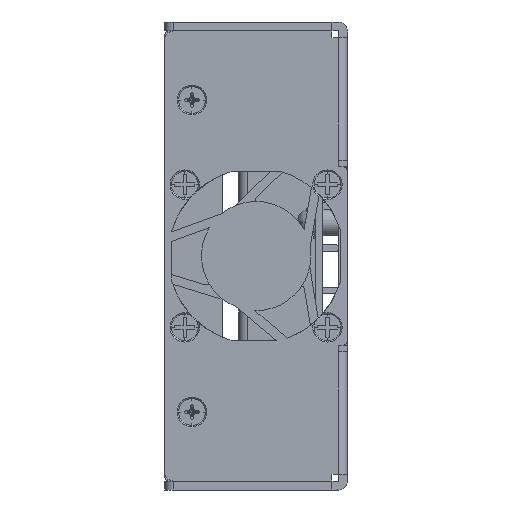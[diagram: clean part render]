
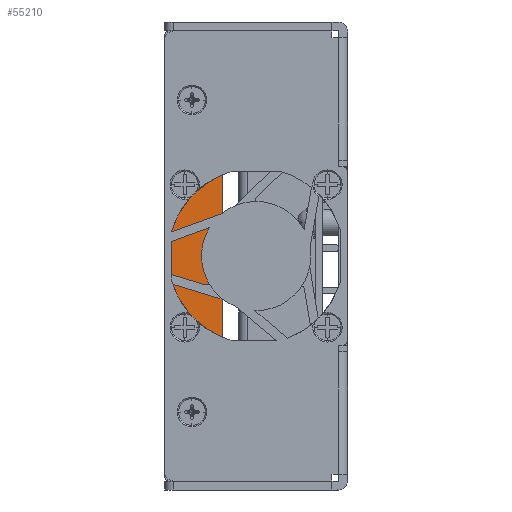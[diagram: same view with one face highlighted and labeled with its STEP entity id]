
A CAD part, left-side view. The second image highlights one B-rep face of the part: STEP entity #55210.
In plain terms, the highlighted planar face has unit normal (-1, 0, 0).
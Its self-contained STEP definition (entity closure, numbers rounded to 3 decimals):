
#52266=DIRECTION('',(0.,0.,1.));
#52267=VECTOR('',#52266,98.);
#52268=CARTESIAN_POINT('',(88.,-1.,-49.));
#52269=LINE('',#52268,#52267);
#52392=DIRECTION('',(0.,0.,-1.));
#52393=VECTOR('',#52392,5.5);
#52394=CARTESIAN_POINT('',(88.,-6.,50.5));
#52395=LINE('',#52394,#52393);
#52399=DIRECTION('',(0.,1.,0.));
#52400=VECTOR('',#52399,5.);
#52401=CARTESIAN_POINT('',(88.,-12.,44.));
#52402=LINE('',#52401,#52400);
#52406=CARTESIAN_POINT('',(88.,-12.,43.));
#52407=DIRECTION('',(-1.,0.,0.));
#52408=DIRECTION('',(0.,-1.,0.));
#52409=AXIS2_PLACEMENT_3D('',#52406,#52407,#52408);
#52414=DIRECTION('',(0.,0.,-1.));
#52415=VECTOR('',#52414,68.);
#52416=CARTESIAN_POINT('',(88.,-13.,43.));
#52417=LINE('',#52416,#52415);
#52421=DIRECTION('',(0.,1.,0.));
#52422=VECTOR('',#52421,7.5);
#52423=CARTESIAN_POINT('',(88.,-21.5,-26.));
#52424=LINE('',#52423,#52422);
#52428=CARTESIAN_POINT('',(88.,-21.5,-27.));
#52429=DIRECTION('',(-1.,0.,0.));
#52430=DIRECTION('',(0.,-1.,0.));
#52431=AXIS2_PLACEMENT_3D('',#52428,#52429,#52430);
#52436=CARTESIAN_POINT('',(88.,-21.5,-43.));
#52437=DIRECTION('',(-1.,0.,0.));
#52438=DIRECTION('',(0.,0.,-1.));
#52439=AXIS2_PLACEMENT_3D('',#52436,#52437,#52438);
#52444=DIRECTION('',(0.,1.,0.));
#52445=VECTOR('',#52444,14.5);
#52446=CARTESIAN_POINT('',(88.,-21.5,-44.));
#52447=LINE('',#52446,#52445);
#52451=DIRECTION('',(0.,0.,1.));
#52452=VECTOR('',#52451,5.5);
#52453=CARTESIAN_POINT('',(88.,-6.,-50.5));
#52454=LINE('',#52453,#52452);
#52458=DIRECTION('',(0.,-1.,0.));
#52459=VECTOR('',#52458,4.5);
#52460=CARTESIAN_POINT('',(88.,-1.5,-50.5));
#52461=LINE('',#52460,#52459);
#52465=DIRECTION('',(0.,-1.,0.));
#52466=VECTOR('',#52465,0.5);
#52467=CARTESIAN_POINT('',(88.,-1.,-49.));
#52468=LINE('',#52467,#52466);
#52472=DIRECTION('',(0.,-1.,0.));
#52473=VECTOR('',#52472,0.5);
#52474=CARTESIAN_POINT('',(88.,-1.,49.));
#52475=LINE('',#52474,#52473);
#52479=DIRECTION('',(0.,1.,0.));
#52480=VECTOR('',#52479,4.5);
#52481=CARTESIAN_POINT('',(88.,-6.,50.5));
#52482=LINE('',#52481,#52480);
#52493=CARTESIAN_POINT('',(88.,-7.,45.));
#52494=DIRECTION('',(1.,0.,0.));
#52495=DIRECTION('',(0.,0.,-1.));
#52496=AXIS2_PLACEMENT_3D('',#52493,#52494,#52495);
#52638=DIRECTION('',(0.,0.,-1.));
#52639=VECTOR('',#52638,1.5);
#52640=CARTESIAN_POINT('',(88.,-1.5,50.5));
#52641=LINE('',#52640,#52639);
#53364=DIRECTION('',(0.,0.,-1.));
#53365=VECTOR('',#53364,1.5);
#53366=CARTESIAN_POINT('',(88.,-1.5,-49.));
#53367=LINE('',#53366,#53365);
#53414=CARTESIAN_POINT('',(88.,-7.,-45.));
#53415=DIRECTION('',(1.,0.,0.));
#53416=DIRECTION('',(0.,1.,0.));
#53417=AXIS2_PLACEMENT_3D('',#53414,#53415,#53416);
#53457=DIRECTION('',(0.,0.,1.));
#53458=VECTOR('',#53457,16.);
#53459=CARTESIAN_POINT('',(88.,-22.5,-43.));
#53460=LINE('',#53459,#53458);
#53486=CARTESIAN_POINT('',(88.,-14.,-25.));
#53487=DIRECTION('',(1.,0.,0.));
#53488=DIRECTION('',(0.,0.,-1.));
#53489=AXIS2_PLACEMENT_3D('',#53486,#53487,#53488);
#53725=CARTESIAN_POINT('',(88.,-1.,49.));
#53727=VERTEX_POINT('',#53725);
#53731=CARTESIAN_POINT('',(88.,-1.5,49.));
#53732=VERTEX_POINT('',#53731);
#53753=CARTESIAN_POINT('',(88.,-1.,-49.));
#53755=VERTEX_POINT('',#53753);
#53759=CARTESIAN_POINT('',(88.,-1.5,-49.));
#53760=VERTEX_POINT('',#53759);
#53822=CARTESIAN_POINT('',(88.,-1.5,50.5));
#53824=VERTEX_POINT('',#53822);
#53826=CARTESIAN_POINT('',(88.,-1.5,-50.5));
#53828=VERTEX_POINT('',#53826);
#53953=CARTESIAN_POINT('',(88.,-6.,-50.5));
#53955=VERTEX_POINT('',#53953);
#53957=CARTESIAN_POINT('',(88.,-6.,50.5));
#53959=VERTEX_POINT('',#53957);
#54034=CARTESIAN_POINT('',(88.,-13.,-25.));
#54036=VERTEX_POINT('',#54034);
#54038=CARTESIAN_POINT('',(88.,-14.,-26.));
#54040=VERTEX_POINT('',#54038);
#54045=CARTESIAN_POINT('',(88.,-22.5,-27.));
#54046=VERTEX_POINT('',#54045);
#54047=CARTESIAN_POINT('',(88.,-21.5,-26.));
#54048=VERTEX_POINT('',#54047);
#54053=CARTESIAN_POINT('',(88.,-21.5,-44.));
#54054=VERTEX_POINT('',#54053);
#54055=CARTESIAN_POINT('',(88.,-22.5,-43.));
#54056=VERTEX_POINT('',#54055);
#54061=CARTESIAN_POINT('',(88.,-13.,43.));
#54062=VERTEX_POINT('',#54061);
#54063=CARTESIAN_POINT('',(88.,-12.,44.));
#54064=VERTEX_POINT('',#54063);
#54066=CARTESIAN_POINT('',(88.,-7.,-44.));
#54068=VERTEX_POINT('',#54066);
#54070=CARTESIAN_POINT('',(88.,-6.,-45.));
#54072=VERTEX_POINT('',#54070);
#54073=CARTESIAN_POINT('',(88.,-7.,44.));
#54075=VERTEX_POINT('',#54073);
#54077=CARTESIAN_POINT('',(88.,-6.,45.));
#54079=VERTEX_POINT('',#54077);
#55164=CARTESIAN_POINT('',(88.,0.,49.5));
#55165=DIRECTION('',(1.,0.,0.));
#55166=DIRECTION('',(0.,0.,1.));
#55167=AXIS2_PLACEMENT_3D('',#55164,#55165,#55166);
#55168=PLANE('',#55167);
#55170=ORIENTED_EDGE('',*,*,#55169,.T.);
#55172=ORIENTED_EDGE('',*,*,#55171,.F.);
#55174=ORIENTED_EDGE('',*,*,#55173,.F.);
#55176=ORIENTED_EDGE('',*,*,#55175,.F.);
#55178=ORIENTED_EDGE('',*,*,#55177,.T.);
#55180=ORIENTED_EDGE('',*,*,#55179,.F.);
#55182=ORIENTED_EDGE('',*,*,#55181,.F.);
#55184=ORIENTED_EDGE('',*,*,#55183,.F.);
#55186=ORIENTED_EDGE('',*,*,#55185,.F.);
#55188=ORIENTED_EDGE('',*,*,#55187,.F.);
#55190=ORIENTED_EDGE('',*,*,#55189,.T.);
#55192=ORIENTED_EDGE('',*,*,#55191,.F.);
#55194=ORIENTED_EDGE('',*,*,#55193,.F.);
#55196=ORIENTED_EDGE('',*,*,#55195,.F.);
#55198=ORIENTED_EDGE('',*,*,#55197,.F.);
#55200=ORIENTED_EDGE('',*,*,#55199,.F.);
#55201=ORIENTED_EDGE('',*,*,#55130,.T.);
#55203=ORIENTED_EDGE('',*,*,#55202,.T.);
#55205=ORIENTED_EDGE('',*,*,#55204,.F.);
#55207=ORIENTED_EDGE('',*,*,#55206,.F.);
#55208=EDGE_LOOP('',(#55170,#55172,#55174,#55176,#55178,#55180,#55182,#55184,
#55186,#55188,#55190,#55192,#55194,#55196,#55198,#55200,#55201,#55203,#55205,
#55207));
#55209=FACE_OUTER_BOUND('',#55208,.F.);
#52410=CIRCLE('',#52409,1.);
#52432=CIRCLE('',#52431,1.);
#52440=CIRCLE('',#52439,1.);
#52497=CIRCLE('',#52496,1.);
#53418=CIRCLE('',#53417,1.);
#53490=CIRCLE('',#53489,1.);
#55130=EDGE_CURVE('',#53755,#53727,#52269,.T.);
#55169=EDGE_CURVE('',#53959,#54079,#52395,.T.);
#55171=EDGE_CURVE('',#54075,#54079,#52497,.T.);
#55173=EDGE_CURVE('',#54064,#54075,#52402,.T.);
#55175=EDGE_CURVE('',#54062,#54064,#52410,.T.);
#55177=EDGE_CURVE('',#54062,#54036,#52417,.T.);
#55179=EDGE_CURVE('',#54040,#54036,#53490,.T.);
#55181=EDGE_CURVE('',#54048,#54040,#52424,.T.);
#55183=EDGE_CURVE('',#54046,#54048,#52432,.T.);
#55185=EDGE_CURVE('',#54056,#54046,#53460,.T.);
#55187=EDGE_CURVE('',#54054,#54056,#52440,.T.);
#55189=EDGE_CURVE('',#54054,#54068,#52447,.T.);
#55191=EDGE_CURVE('',#54072,#54068,#53418,.T.);
#55193=EDGE_CURVE('',#53955,#54072,#52454,.T.);
#55195=EDGE_CURVE('',#53828,#53955,#52461,.T.);
#55197=EDGE_CURVE('',#53760,#53828,#53367,.T.);
#55199=EDGE_CURVE('',#53755,#53760,#52468,.T.);
#55202=EDGE_CURVE('',#53727,#53732,#52475,.T.);
#55204=EDGE_CURVE('',#53824,#53732,#52641,.T.);
#55206=EDGE_CURVE('',#53959,#53824,#52482,.T.);
#55210=ADVANCED_FACE('',(#55209),#55168,.F.);
